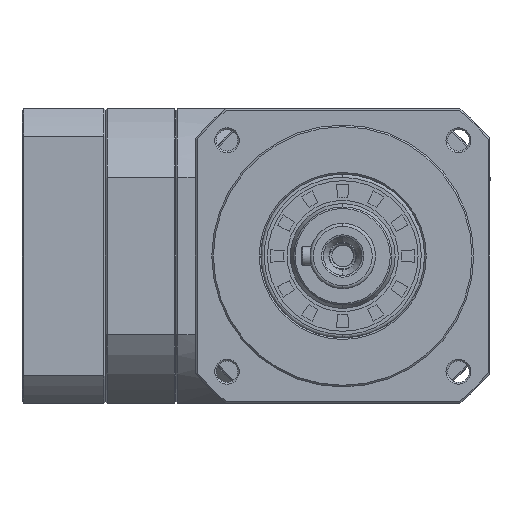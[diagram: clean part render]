
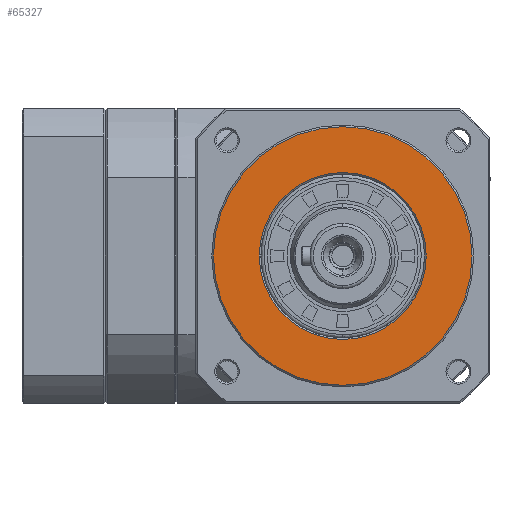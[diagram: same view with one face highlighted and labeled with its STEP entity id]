
A CAD part, left-side view. The second image highlights one B-rep face of the part: STEP entity #65327.
In plain terms, the highlighted planar face has unit normal (1, 0, 0).
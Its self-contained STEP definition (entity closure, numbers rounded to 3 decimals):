
#1406 = ORIENTED_EDGE ( 'NONE', *, *, #9533, .T. ) ;
#3738 = ORIENTED_EDGE ( 'NONE', *, *, #92668, .F. ) ;
#3908 = VERTEX_POINT ( 'NONE', #39295 ) ;
#4074 = DIRECTION ( 'NONE',  ( 0., 0., 1. ) ) ;
#7939 = AXIS2_PLACEMENT_3D ( 'NONE', #85245, #19949, #49901 ) ;
#9063 = CIRCLE ( 'NONE', #79387, 39.5 ) ;
#9533 = EDGE_CURVE ( 'NONE', #93827, #3908, #44435, .T. ) ;
#12892 = PLANE ( 'NONE',  #7939 ) ;
#14923 = AXIS2_PLACEMENT_3D ( 'NONE', #53886, #70753, #40588 ) ;
#19949 = DIRECTION ( 'NONE',  ( 1., 0., 0. ) ) ;
#20207 = ORIENTED_EDGE ( 'NONE', *, *, #58865, .F. ) ;
#24607 = DIRECTION ( 'NONE',  ( 1., 0., 0. ) ) ;
#26724 = VERTEX_POINT ( 'NONE', #46475 ) ;
#29321 = CIRCLE ( 'NONE', #14923, 25.5 ) ;
#31235 = AXIS2_PLACEMENT_3D ( 'NONE', #54607, #91843, #83887 ) ;
#31328 = EDGE_LOOP ( 'NONE', ( #64543, #1406 ) ) ;
#34317 = CARTESIAN_POINT ( 'NONE',  ( 0., 0., 39.5 ) ) ;
#39295 = CARTESIAN_POINT ( 'NONE',  ( 0., 0., -39.5 ) ) ;
#40588 = DIRECTION ( 'NONE',  ( 0., 0., 1. ) ) ;
#44435 = CIRCLE ( 'NONE', #31235, 39.5 ) ;
#46475 = CARTESIAN_POINT ( 'NONE',  ( 0., 0., 25.5 ) ) ;
#48410 = DIRECTION ( 'NONE',  ( 0., 0., -1. ) ) ;
#49901 = DIRECTION ( 'NONE',  ( 0., 0., -1. ) ) ;
#49920 = FACE_OUTER_BOUND ( 'NONE', #31328, .T. ) ;
#53886 = CARTESIAN_POINT ( 'NONE',  ( 0., 0., 0. ) ) ;
#54607 = CARTESIAN_POINT ( 'NONE',  ( 0., 0., 0. ) ) ;
#55588 = FACE_BOUND ( 'NONE', #73294, .T. ) ;
#58865 = EDGE_CURVE ( 'NONE', #26724, #77842, #29321, .T. ) ;
#60891 = CARTESIAN_POINT ( 'NONE',  ( 0., 0., -25.5 ) ) ;
#64543 = ORIENTED_EDGE ( 'NONE', *, *, #80921, .T. ) ;
#65327 = ADVANCED_FACE ( 'NONE', ( #55588, #49920 ), #12892, .T. ) ;
#70648 = DIRECTION ( 'NONE',  ( 1., 0., 0. ) ) ;
#70753 = DIRECTION ( 'NONE',  ( 1., 0., 0. ) ) ;
#71484 = AXIS2_PLACEMENT_3D ( 'NONE', #91167, #24607, #4074 ) ;
#73294 = EDGE_LOOP ( 'NONE', ( #20207, #3738 ) ) ;
#77842 = VERTEX_POINT ( 'NONE', #60891 ) ;
#78256 = CARTESIAN_POINT ( 'NONE',  ( 0., 0., 0. ) ) ;
#79387 = AXIS2_PLACEMENT_3D ( 'NONE', #78256, #70648, #48410 ) ;
#80921 = EDGE_CURVE ( 'NONE', #3908, #93827, #9063, .T. ) ;
#83887 = DIRECTION ( 'NONE',  ( 0., 0., -1. ) ) ;
#85004 = CIRCLE ( 'NONE', #71484, 25.5 ) ;
#85245 = CARTESIAN_POINT ( 'NONE',  ( 0., -39.974, 39.974 ) ) ;
#91167 = CARTESIAN_POINT ( 'NONE',  ( 0., 0., 0. ) ) ;
#91843 = DIRECTION ( 'NONE',  ( 1., 0., 0. ) ) ;
#92668 = EDGE_CURVE ( 'NONE', #77842, #26724, #85004, .T. ) ;
#93827 = VERTEX_POINT ( 'NONE', #34317 ) ;
